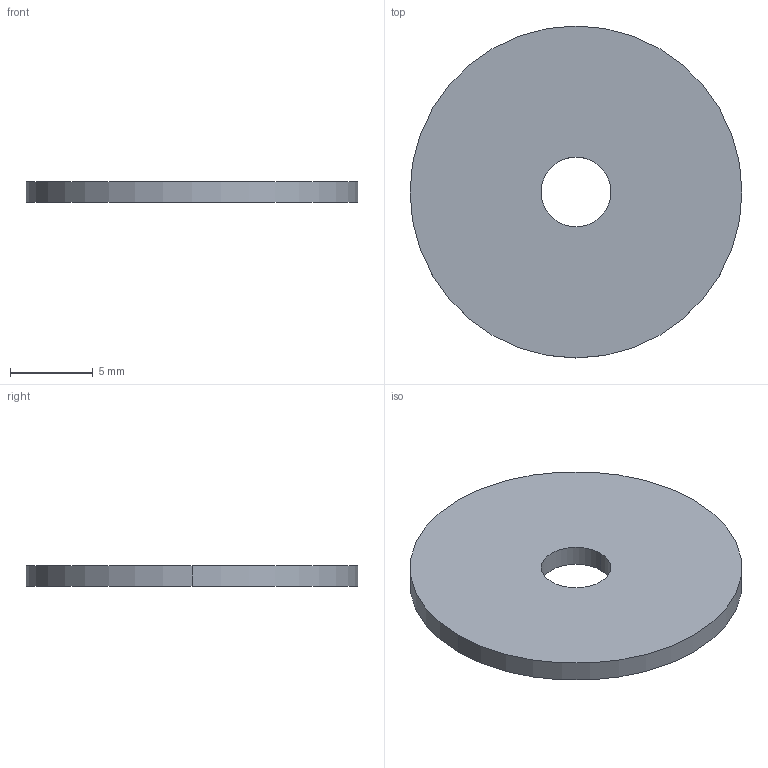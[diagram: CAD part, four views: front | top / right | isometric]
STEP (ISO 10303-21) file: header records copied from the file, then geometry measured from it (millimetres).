
FILE_DESCRIPTION (( 'STEP AP203' ), '1' );
FILE_NAME ('P0333.040-020-A4.step', '2018-12-17T19:07:38', ( '' ), ( '' ), 'SwSTEP 2.0', 'SolidWorks 2017', '' );
FILE_SCHEMA (( 'CONFIG_CONTROL_DESIGN' ));
Length unit declared in the file: millimetre
Products named in the file (1): P0333.040-020-A4
Bounding box: 20 x 20 x 1.25 mm (x, y, z)
Volume: 375.4 mm3; surface area: 695.6 mm2
Topology: 1 solids, 1 shells, 6 faces, 12 edges, 8 vertices
Faces by surface type: cylinder 4, plane 2
Entity records: 245 total; most frequent: DIRECTION 34, CARTESIAN_POINT 27, ORIENTED_EDGE 24, AXIS2_PLACEMENT_3D 15, EDGE_CURVE 12, VERTEX_POINT 8, PERSON_AND_ORGANIZATION 8, CIRCLE 8
